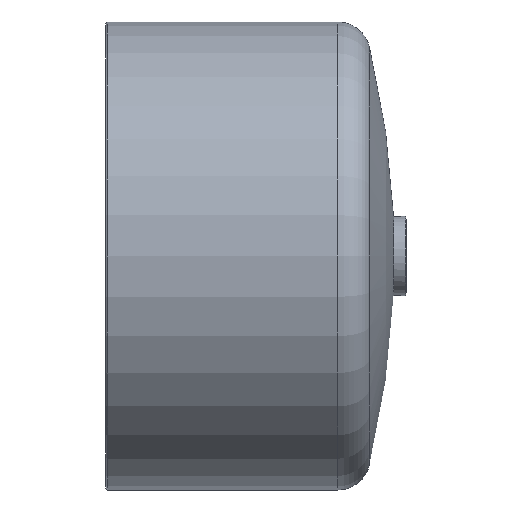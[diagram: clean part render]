
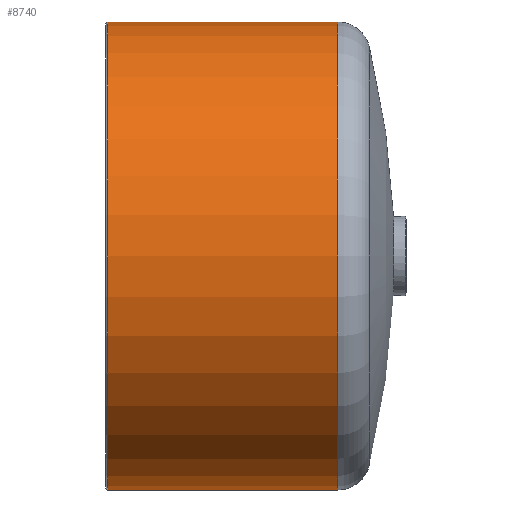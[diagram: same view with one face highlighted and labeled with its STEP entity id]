
A CAD part, front view. The second image highlights one B-rep face of the part: STEP entity #8740.
In plain terms, the highlighted cylindrical face has radius 125 mm (diameter 250 mm), a full revolution.
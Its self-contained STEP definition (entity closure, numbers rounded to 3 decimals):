
#409=CYLINDRICAL_SURFACE('',#9649,125.);
#4073=ORIENTED_EDGE('',*,*,#5441,.T.);
#4074=ORIENTED_EDGE('',*,*,#5440,.T.);
#5440=EDGE_CURVE('',#6210,#6210,#6835,.T.);
#5441=EDGE_CURVE('',#6211,#6211,#6836,.T.);
#6210=VERTEX_POINT('',#21677);
#6211=VERTEX_POINT('',#21680);
#6835=CIRCLE('',#9648,125.);
#6836=CIRCLE('',#9650,125.);
#7457=EDGE_LOOP('',(#4073));
#7458=EDGE_LOOP('',(#4074));
#8086=FACE_BOUND('',#7457,.T.);
#8087=FACE_BOUND('',#7458,.T.);
#8740=ADVANCED_FACE('',(#8086,#8087),#409,.T.);
#9648=AXIS2_PLACEMENT_3D('',#21676,#11471,#11472);
#9649=AXIS2_PLACEMENT_3D('',#21678,#11473,#11474);
#9650=AXIS2_PLACEMENT_3D('',#21679,#11475,#11476);
#11471=DIRECTION('',(-1.,0.,0.));
#11472=DIRECTION('',(0.,0.,1.));
#11473=DIRECTION('',(-1.,0.,0.));
#11474=DIRECTION('',(0.,0.,1.));
#11475=DIRECTION('',(1.,0.,0.));
#11476=DIRECTION('',(0.,0.,-1.));
#21676=CARTESIAN_POINT('',(135.,0.,0.));
#21677=CARTESIAN_POINT('',(135.,0.,125.));
#21678=CARTESIAN_POINT('',(60.,0.,0.));
#21679=CARTESIAN_POINT('',(12.,0.,0.));
#21680=CARTESIAN_POINT('',(12.,0.,-125.));
